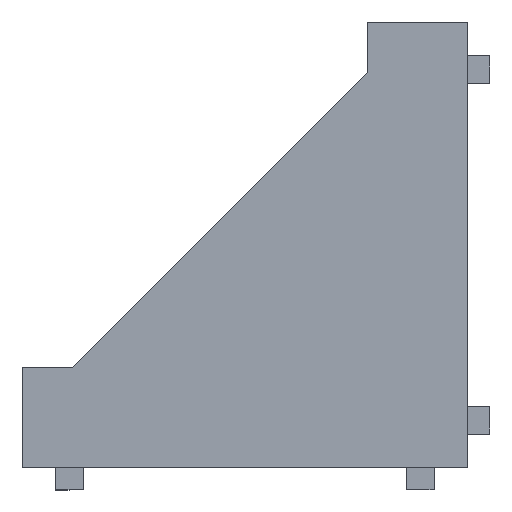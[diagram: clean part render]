
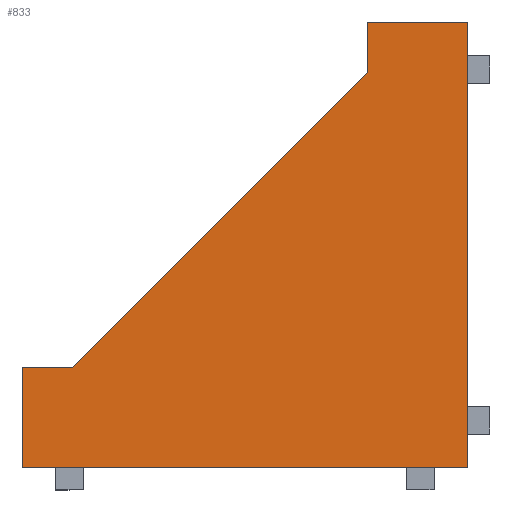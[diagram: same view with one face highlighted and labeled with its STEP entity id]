
A CAD part, top view. The second image highlights one B-rep face of the part: STEP entity #833.
In plain terms, the highlighted planar face has unit normal (0, 0, 1).
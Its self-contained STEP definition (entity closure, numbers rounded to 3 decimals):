
#1 = LINE ( 'NONE', #2168, #394 ) ;
#24 = VERTEX_POINT ( 'NONE', #2100 ) ;
#128 = DIRECTION ( 'NONE',  ( 0., 1., 0. ) ) ;
#142 = CARTESIAN_POINT ( 'NONE',  ( 11., 15.5, 17.5 ) ) ;
#149 = LINE ( 'NONE', #2314, #244 ) ;
#179 = ORIENTED_EDGE ( 'NONE', *, *, #1223, .T. ) ;
#244 = VECTOR ( 'NONE', #2065, 1000. ) ;
#279 = EDGE_CURVE ( 'NONE', #1515, #2109, #602, .T. ) ;
#345 = PLANE ( 'NONE',  #1737 ) ;
#372 = CARTESIAN_POINT ( 'NONE',  ( 11., 20., 17.5 ) ) ;
#378 = DIRECTION ( 'NONE',  ( 0., 1., 0. ) ) ;
#384 = LINE ( 'NONE', #142, #2353 ) ;
#394 = VECTOR ( 'NONE', #1921, 1000. ) ;
#469 = DIRECTION ( 'NONE',  ( 1., 0., 0. ) ) ;
#569 = DIRECTION ( 'NONE',  ( 0., -1., 0. ) ) ;
#590 = VECTOR ( 'NONE', #1491, 1000. ) ;
#597 = VERTEX_POINT ( 'NONE', #2033 ) ;
#602 = LINE ( 'NONE', #372, #2312 ) ;
#610 = CARTESIAN_POINT ( 'NONE',  ( 20., 20., 17.5 ) ) ;
#707 = ORIENTED_EDGE ( 'NONE', *, *, #1395, .T. ) ;
#713 = DIRECTION ( 'NONE',  ( 0., 0., 1. ) ) ;
#787 = ORIENTED_EDGE ( 'NONE', *, *, #1900, .T. ) ;
#825 = CARTESIAN_POINT ( 'NONE',  ( -20., 20., 17.5 ) ) ;
#833 = ADVANCED_FACE ( 'NONE', ( #1993 ), #345, .T. ) ;
#870 = LINE ( 'NONE', #610, #1333 ) ;
#880 = CARTESIAN_POINT ( 'NONE',  ( -20., -11., 17.5 ) ) ;
#955 = CARTESIAN_POINT ( 'NONE',  ( 0., 0., 17.5 ) ) ;
#994 = EDGE_CURVE ( 'NONE', #1307, #24, #870, .T. ) ;
#1072 = LINE ( 'NONE', #825, #2002 ) ;
#1088 = ORIENTED_EDGE ( 'NONE', *, *, #279, .F. ) ;
#1201 = CARTESIAN_POINT ( 'NONE',  ( 11., 15.5, 17.5 ) ) ;
#1223 = EDGE_CURVE ( 'NONE', #24, #2109, #149, .T. ) ;
#1307 = VERTEX_POINT ( 'NONE', #2001 ) ;
#1333 = VECTOR ( 'NONE', #378, 1000. ) ;
#1395 = EDGE_CURVE ( 'NONE', #2096, #1307, #1991, .T. ) ;
#1416 = EDGE_LOOP ( 'NONE', ( #1088, #1923, #1526, #787, #707, #1796, #179 ) ) ;
#1491 = DIRECTION ( 'NONE',  ( 1., 0., 0. ) ) ;
#1515 = VERTEX_POINT ( 'NONE', #1201 ) ;
#1526 = ORIENTED_EDGE ( 'NONE', *, *, #1712, .F. ) ;
#1627 = CARTESIAN_POINT ( 'NONE',  ( 11., 20., 17.5 ) ) ;
#1681 = CARTESIAN_POINT ( 'NONE',  ( -20., -20., 17.5 ) ) ;
#1712 = EDGE_CURVE ( 'NONE', #2019, #597, #1, .T. ) ;
#1737 = AXIS2_PLACEMENT_3D ( 'NONE', #955, #713, #469 ) ;
#1739 = CARTESIAN_POINT ( 'NONE',  ( -20., -20., 17.5 ) ) ;
#1796 = ORIENTED_EDGE ( 'NONE', *, *, #994, .T. ) ;
#1900 = EDGE_CURVE ( 'NONE', #2019, #2096, #1072, .T. ) ;
#1921 = DIRECTION ( 'NONE',  ( 1., 0., 0. ) ) ;
#1923 = ORIENTED_EDGE ( 'NONE', *, *, #2031, .F. ) ;
#1991 = LINE ( 'NONE', #1739, #590 ) ;
#1993 = FACE_OUTER_BOUND ( 'NONE', #1416, .T. ) ;
#2001 = CARTESIAN_POINT ( 'NONE',  ( 20., -20., 17.5 ) ) ;
#2002 = VECTOR ( 'NONE', #569, 1000. ) ;
#2019 = VERTEX_POINT ( 'NONE', #880 ) ;
#2031 = EDGE_CURVE ( 'NONE', #597, #1515, #384, .T. ) ;
#2033 = CARTESIAN_POINT ( 'NONE',  ( -15.5, -11., 17.5 ) ) ;
#2065 = DIRECTION ( 'NONE',  ( -1., 0., 0. ) ) ;
#2096 = VERTEX_POINT ( 'NONE', #1681 ) ;
#2100 = CARTESIAN_POINT ( 'NONE',  ( 20., 20., 17.5 ) ) ;
#2109 = VERTEX_POINT ( 'NONE', #1627 ) ;
#2168 = CARTESIAN_POINT ( 'NONE',  ( -15.5, -11., 17.5 ) ) ;
#2305 = DIRECTION ( 'NONE',  ( 0.707, 0.707, 0. ) ) ;
#2312 = VECTOR ( 'NONE', #128, 1000. ) ;
#2314 = CARTESIAN_POINT ( 'NONE',  ( -20., 20., 17.5 ) ) ;
#2353 = VECTOR ( 'NONE', #2305, 1000. ) ;
